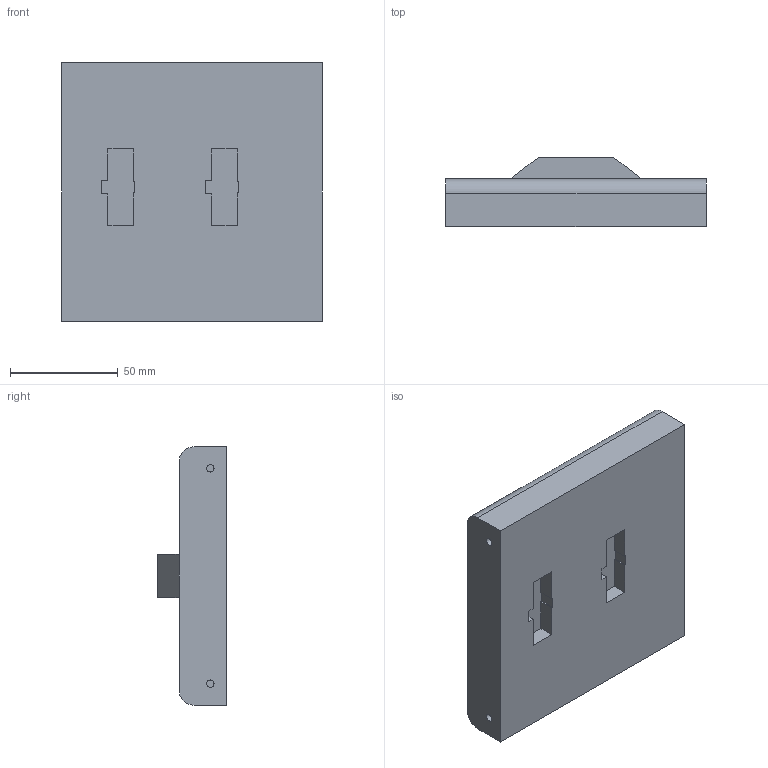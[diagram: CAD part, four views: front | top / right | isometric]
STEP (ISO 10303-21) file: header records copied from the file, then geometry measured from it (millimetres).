
FILE_DESCRIPTION(/* description */ (''),/* implementation_level */ '2;1');
FILE_NAME(/* name */ 'TopSide.step',/* time_stamp */ '2024-08-31T17:08:59-04:00',/* author */ (''),/* organization */ (''),/* preprocessor_version */ 'ST-DEVELOPER v20',/* originating_system */ 'Autodesk Translation Framework v13.14.0.145',/* authorisation */ '');
FILE_SCHEMA (('AUTOMOTIVE_DESIGN { 1 0 10303 214 3 1 1 }'));
Length unit declared in the file: millimetre
Products named in the file (1): Top Reprint
Bounding box: 121 x 32 x 120 mm (x, y, z)
Volume: 319060.4 mm3; surface area: 42740.3 mm2
Topology: 1 solids, 1 shells, 51 faces, 120 edges, 80 vertices
Faces by surface type: plane 43, cylinder 8
Full cylindrical faces by diameter (mm): 3 x2, 3.454 x4
Entity records: 1483 total; most frequent: CARTESIAN_POINT 252, ORIENTED_EDGE 240, DIRECTION 240, EDGE_CURVE 120, LINE 104, VECTOR 104, VERTEX_POINT 80, AXIS2_PLACEMENT_3D 68
